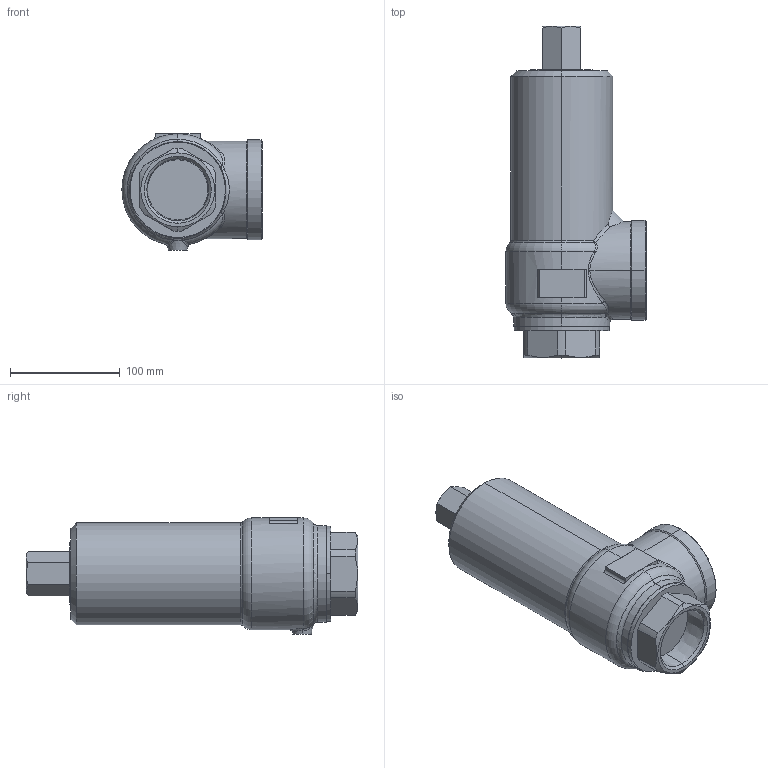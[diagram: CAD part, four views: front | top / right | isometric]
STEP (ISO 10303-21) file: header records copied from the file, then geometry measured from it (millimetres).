
FILE_DESCRIPTION (( 'STEP AP203' ), '1' );
FILE_NAME ('AL-140H 50A.STEP', '2026-01-13T02:02:36', ( '' ), ( '' ), 'SwSTEP 2.0', 'SolidWorks 2024', '' );
FILE_SCHEMA (( 'CONFIG_CONTROL_DESIGN' ));
Length unit declared in the file: millimetre
Products named in the file (1): AL-140H 50A
Bounding box: 128 x 303 x 106 mm (x, y, z)
Volume: 1898030 mm3; surface area: 112877.3 mm2
Topology: 1 solids, 1 shells, 102 faces, 236 edges, 142 vertices
Faces by surface type: plane 29, cone 22, cylinder 22, bspline 15, torus 12, sphere 2
Entity records: 4612 total; most frequent: CARTESIAN_POINT 2303, ORIENTED_EDGE 472, DIRECTION 465, EDGE_CURVE 236, AXIS2_PLACEMENT_3D 193, VERTEX_POINT 142, EDGE_LOOP 108, CIRCLE 105
